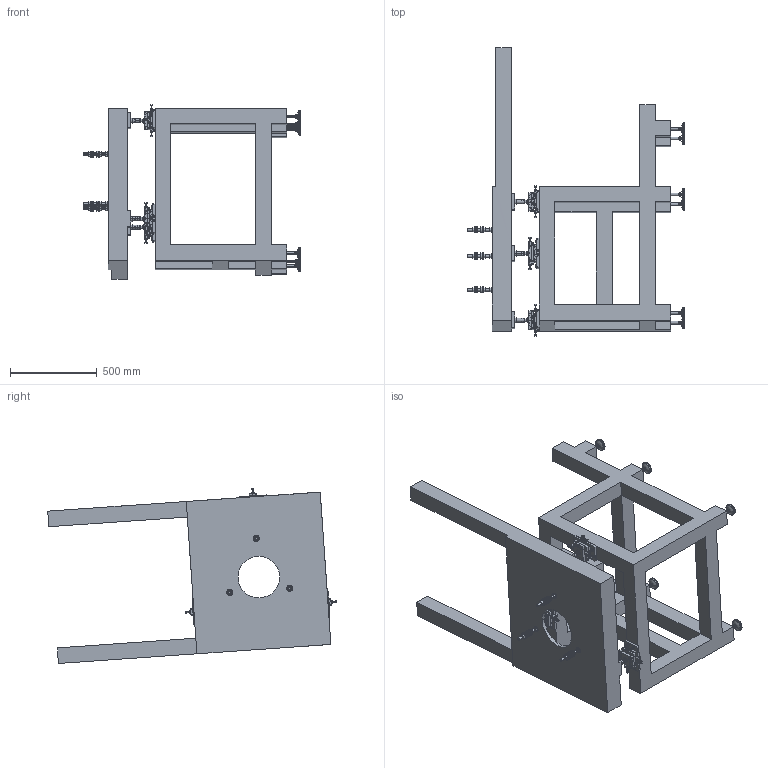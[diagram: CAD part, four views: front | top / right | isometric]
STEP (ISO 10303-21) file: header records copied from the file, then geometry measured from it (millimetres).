
FILE_DESCRIPTION((''),'2;1');
FILE_NAME('HAXPES_TELAIO01_ASM','2024-05-07T',('Davide'),(''),'PRO/ENGINEER BY PARAMETRIC TECHNOLOGY CORPORATION, 2012360','PRO/ENGINEER BY PARAMETRIC TECHNOLOGY CORPORATION, 2012360','');
FILE_SCHEMA(('AUTOMOTIVE_DESIGN { 1 0 10303 214 1 1 1 1 }'));
Length unit declared in the file: millimetre
Products named in the file (24): HAX3PES_SIMUPIANO06; HAX3_COLONNETTAM16_01; GN30862; GN30932; 12460403; R16--_-_U6592; D16--_-_U5588_G; A0AG0201; A0AG0202; V4-20--_-_U5931_GC; A0AG0205; D8--_-_U5588_G; A0AG0207; A0AG0203; A0AG0204; A0AG0206; R8--_-_U6592; V8-30--_-_U5931_GC; THK20014; A0AG0208; V6-20--_-_U5931_GC; A0AG0200_ASM; PIED-SNOD_RS-448-2052; HAXPES_TELAIO01_ASM
Assembly tree (91 placements, depth 3):
  HAXPES_TELAIO01_ASM
    HAX3PES_SIMUPIANO06
    HAX3_COLONNETTAM16_01  x3
    GN30862  x6
    GN30932  x6
    12460403  x6
    R16--_-_U6592  x3
    D16--_-_U5588_G  x3
    A0AG0200_ASM  x3
      A0AG0201
      A0AG0202
      V4-20--_-_U5931_GC
      A0AG0205
      D8--_-_U5588_G
      A0AG0207
      A0AG0203
      A0AG0204
      A0AG0206
      R8--_-_U6592
      V8-30--_-_U5931_GC
      THK20014
      A0AG0208
      V6-20--_-_U5931_GC
    PIED-SNOD_RS-448-2052  x6
Bounding box: 1255 x 1662.51 x 1008.33 mm (x, y, z)
Volume: 128567677.7 mm3; surface area: 6622601.5 mm2
Topology: 197 solids, 296 shells, 4336 faces, 9841 edges, 6324 vertices
Faces by surface type: plane 2024, cylinder 1544, cone 528, torus 180, sphere 60
Entity records: 27445 total; most frequent: CARTESIAN_POINT 4016, DIRECTION 3762, ORIENTED_EDGE 2988, EDGE_CURVE 1552, AXIS2_PLACEMENT_3D 1453, PRESENTATION_STYLE_ASSIGNMENT 1245, STYLED_ITEM 1245, CURVE_STYLE 1066
